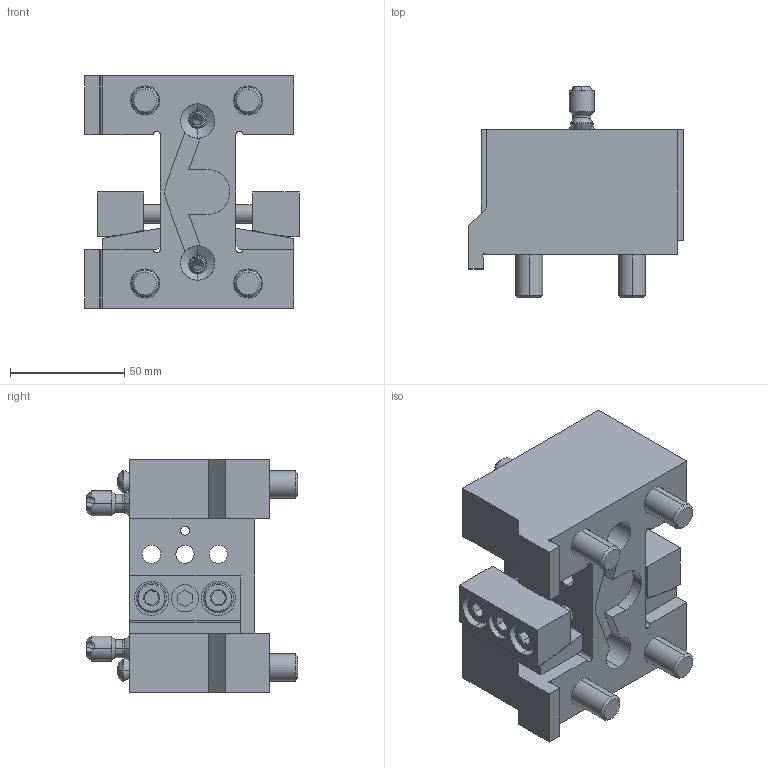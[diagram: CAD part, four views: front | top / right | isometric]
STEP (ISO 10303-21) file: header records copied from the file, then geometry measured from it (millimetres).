
FILE_DESCRIPTION (( 'STEP AP203' ), '1' );
FILE_NAME ('04-0763, BOT20MOD-25T.STEP', '2022-07-18T15:40:20', ( '' ), ( '' ), 'SwSTEP 2.0', 'SolidWorks 2021', '' );
FILE_SCHEMA (( 'CONFIG_CONTROL_DESIGN' ));
Length unit declared in the file: inch
Products named in the file (1): 04-0763, BOT20MOD-25T
Bounding box: 93.71 x 92.51 x 101.6 mm (x, y, z)
Surface area: 88382.1 mm2 (no closed solid volume)
Topology: 0 solids, 31 shells, 353 faces, 947 edges, 624 vertices
Faces by surface type: plane 152, cylinder 103, cone 82, bspline 16
Entity records: 14310 total; most frequent: CARTESIAN_POINT 5505, DIRECTION 1823, ORIENTED_EDGE 1700, EDGE_CURVE 947, AXIS2_PLACEMENT_3D 678, VERTEX_POINT 624, LINE 467, VECTOR 467
